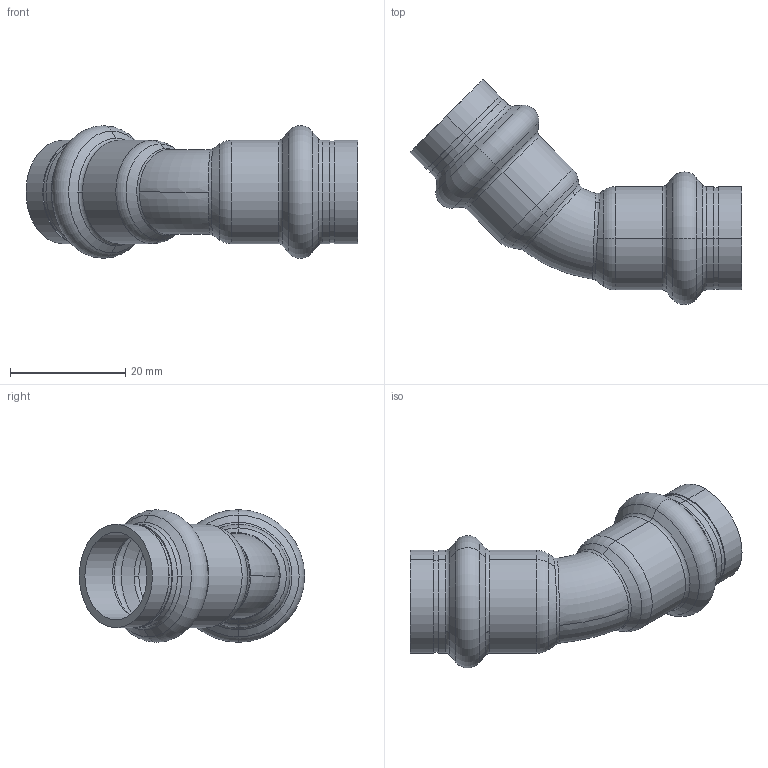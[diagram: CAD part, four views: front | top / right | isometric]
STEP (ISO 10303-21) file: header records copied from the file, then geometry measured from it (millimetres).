
FILE_DESCRIPTION (( 'STEP AP203' ), '1' );
FILE_NAME ('SP5041 Ø15.STEP', '2017-04-24T08:13:51', ( '' ), ( '' ), 'SwSTEP 2.0', 'SolidWorks 2016', '' );
FILE_SCHEMA (( 'CONFIG_CONTROL_DESIGN' ));
Length unit declared in the file: millimetre
Products named in the file (1): SP5041 ﾘ15
Bounding box: 57.54 x 39.04 x 23 mm (x, y, z)
Volume: 4623.4 mm3; surface area: 6904 mm2
Topology: 1 solids, 1 shells, 94 faces, 216 edges, 128 vertices
Faces by surface type: torus 36, cylinder 24, cone 24, plane 6, bspline 4
Entity records: 3746 total; most frequent: CARTESIAN_POINT 1488, DIRECTION 518, ORIENTED_EDGE 432, AXIS2_PLACEMENT_3D 235, EDGE_CURVE 216, CIRCLE 144, VERTEX_POINT 128, EDGE_LOOP 100
